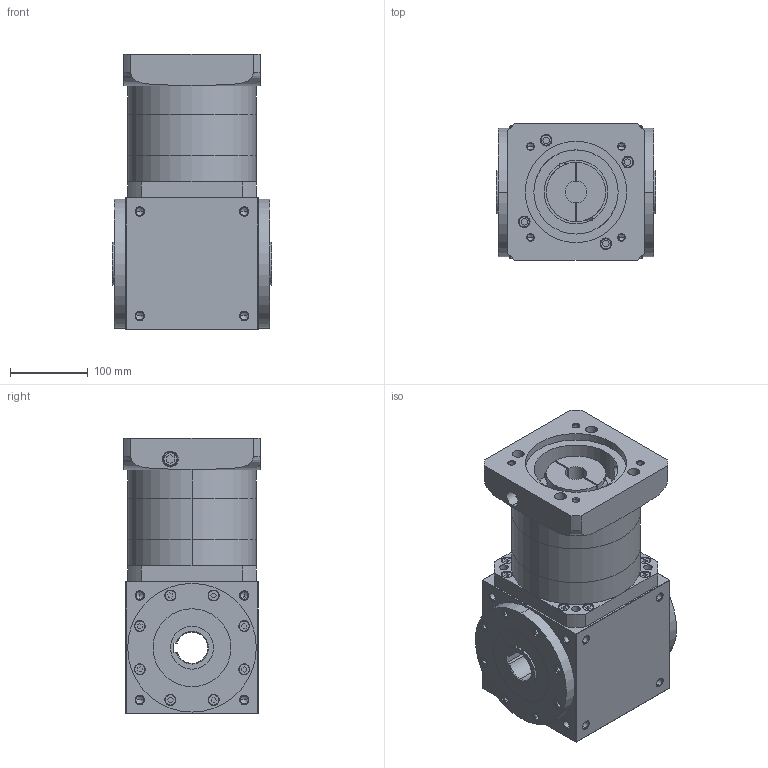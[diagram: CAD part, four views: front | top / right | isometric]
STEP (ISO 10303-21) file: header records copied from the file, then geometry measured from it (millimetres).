
FILE_DESCRIPTION (( 'STEP AP203' ), '1' );
FILE_NAME ('AT170-FH-L2-28-130-165M10.STEP', '2025-08-16T06:25:02', ( 'Windows User' ), ( 'P R C' ), 'SwSTEP 2.0', 'SolidWorks 2016', '' );
FILE_SCHEMA (( 'CONFIG_CONTROL_DESIGN' ));
Length unit declared in the file: millimetre
Products named in the file (5): AT170-蛌褒眊极-謂怀堤; AT170-蛌倰怀堤楊擘; AT170-内齿圈108-1; AT170-输入法兰-B-F1-28-65-130-M10-165-输入28孔; AT170-FH-L2-28-130-165M10
Assembly tree (4 placements, depth 2):
  AT170-FH-L2-28-130-165M10
    AT170-蛌褒眊极-謂怀堤
    AT170-蛌倰怀堤楊擘
    AT170-内齿圈108-1
    AT170-输入法兰-B-F1-28-65-130-M10-165-输入28孔
Bounding box: 204 x 175 x 354 mm (x, y, z)
Volume: 7402756.2 mm3; surface area: 699469.3 mm2
Topology: 4 solids, 20 shells, 1542 faces, 3898 edges, 2444 vertices
Faces by surface type: plane 783, cylinder 368, cone 256, bspline 135
Entity records: 54299 total; most frequent: CARTESIAN_POINT 18072, ORIENTED_EDGE 7556, DIRECTION 6938, EDGE_CURVE 3778, LINE 2482, VECTOR 2482, VERTEX_POINT 2444, AXIS2_PLACEMENT_3D 2228
